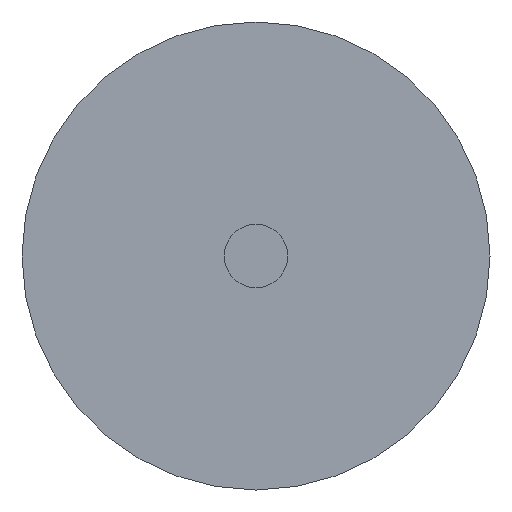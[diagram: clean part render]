
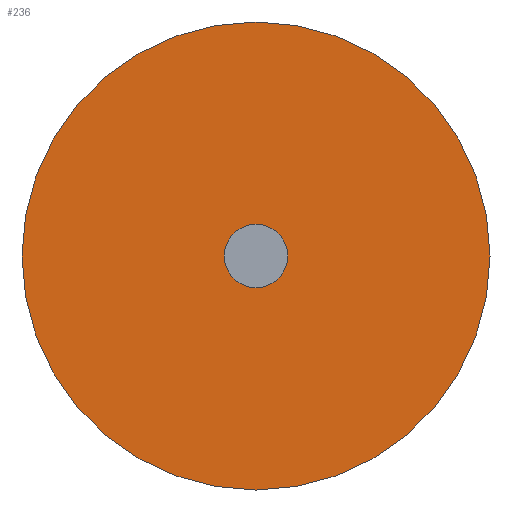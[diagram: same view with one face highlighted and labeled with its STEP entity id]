
A CAD part, left-side view. The second image highlights one B-rep face of the part: STEP entity #236.
In plain terms, the highlighted planar face has unit normal (-1, 0, 0).
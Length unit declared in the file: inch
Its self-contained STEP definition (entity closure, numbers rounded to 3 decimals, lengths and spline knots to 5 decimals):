
#11 = DIRECTION ( 'NONE',  ( 0., 0., 1. ) ) ;
#15 = DIRECTION ( 'NONE',  ( 0., 0., 1. ) ) ;
#85 = ORIENTED_EDGE ( 'NONE', *, *, #583, .F. ) ;
#167 = CARTESIAN_POINT ( 'NONE',  ( 0., 0., 0.08837 ) ) ;
#236 = ADVANCED_FACE ( 'NONE', ( #1258, #921 ), #944, .F. ) ;
#271 = VERTEX_POINT ( 'NONE', #1028 ) ;
#309 = VERTEX_POINT ( 'NONE', #1195 ) ;
#332 = VERTEX_POINT ( 'NONE', #167 ) ;
#335 = CARTESIAN_POINT ( 'NONE',  ( 0., 0., 0.012 ) ) ;
#405 = AXIS2_PLACEMENT_3D ( 'NONE', #934, #927, #908 ) ;
#494 = EDGE_LOOP ( 'NONE', ( #766, #770 ) ) ;
#504 = CIRCLE ( 'NONE', #1138, 0.012 ) ;
#569 = DIRECTION ( 'NONE',  ( 0., 0., 1. ) ) ;
#583 = EDGE_CURVE ( 'NONE', #271, #951, #504, .T. ) ;
#584 = DIRECTION ( 'NONE',  ( -1., 0., 0. ) ) ;
#590 = CARTESIAN_POINT ( 'NONE',  ( 0., 0., 0. ) ) ;
#609 = AXIS2_PLACEMENT_3D ( 'NONE', #860, #662, #666 ) ;
#628 = AXIS2_PLACEMENT_3D ( 'NONE', #745, #1129, #11 ) ;
#649 = CIRCLE ( 'NONE', #628, 0.012 ) ;
#662 = DIRECTION ( 'NONE',  ( -1., 0., 0. ) ) ;
#666 = DIRECTION ( 'NONE',  ( 0., 0., 1. ) ) ;
#696 = EDGE_CURVE ( 'NONE', #309, #332, #1019, .T. ) ;
#744 = EDGE_CURVE ( 'NONE', #332, #309, #1310, .T. ) ;
#745 = CARTESIAN_POINT ( 'NONE',  ( 0., 0., 0. ) ) ;
#766 = ORIENTED_EDGE ( 'NONE', *, *, #744, .T. ) ;
#770 = ORIENTED_EDGE ( 'NONE', *, *, #696, .T. ) ;
#860 = CARTESIAN_POINT ( 'NONE',  ( 0., 0., 0. ) ) ;
#908 = DIRECTION ( 'NONE',  ( 0., 0., -1. ) ) ;
#921 = FACE_OUTER_BOUND ( 'NONE', #494, .T. ) ;
#927 = DIRECTION ( 'NONE',  ( 1., 0., 0. ) ) ;
#934 = CARTESIAN_POINT ( 'NONE',  ( 0., 0., 0. ) ) ;
#944 = PLANE ( 'NONE',  #405 ) ;
#951 = VERTEX_POINT ( 'NONE', #335 ) ;
#1018 = AXIS2_PLACEMENT_3D ( 'NONE', #590, #584, #569 ) ;
#1019 = CIRCLE ( 'NONE', #1018, 0.08837 ) ;
#1028 = CARTESIAN_POINT ( 'NONE',  ( 0., 0., -0.012 ) ) ;
#1043 = EDGE_LOOP ( 'NONE', ( #1177, #85 ) ) ;
#1129 = DIRECTION ( 'NONE',  ( -1., 0., 0. ) ) ;
#1138 = AXIS2_PLACEMENT_3D ( 'NONE', #1174, #1242, #15 ) ;
#1174 = CARTESIAN_POINT ( 'NONE',  ( 0., 0., 0. ) ) ;
#1177 = ORIENTED_EDGE ( 'NONE', *, *, #1236, .F. ) ;
#1195 = CARTESIAN_POINT ( 'NONE',  ( 0., 0., -0.08837 ) ) ;
#1236 = EDGE_CURVE ( 'NONE', #951, #271, #649, .T. ) ;
#1242 = DIRECTION ( 'NONE',  ( -1., 0., 0. ) ) ;
#1258 = FACE_BOUND ( 'NONE', #1043, .T. ) ;
#1310 = CIRCLE ( 'NONE', #609, 0.08837 ) ;
